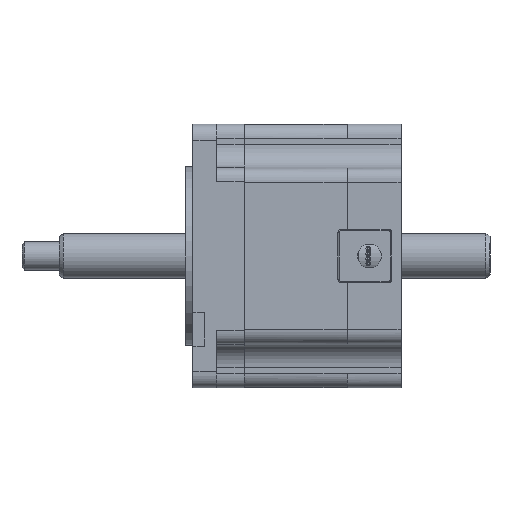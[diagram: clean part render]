
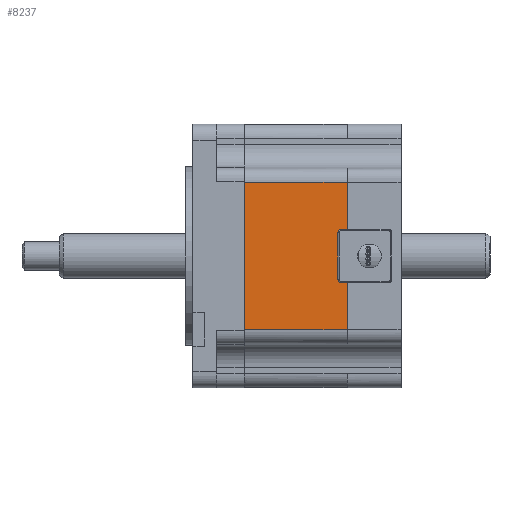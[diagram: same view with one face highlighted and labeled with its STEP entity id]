
A CAD part, front view. The second image highlights one B-rep face of the part: STEP entity #8237.
In plain terms, the highlighted planar face has unit normal (0, -1, 0).
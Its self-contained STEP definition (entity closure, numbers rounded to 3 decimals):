
#2411=CARTESIAN_POINT('',(11.,-28.1,-15.8));
#2412=VERTEX_POINT('',#2411);
#2420=CARTESIAN_POINT('',(11.,-28.1,15.8));
#2421=VERTEX_POINT('',#2420);
#2422=CARTESIAN_POINT('',(11.,-28.1,-15.8));
#2423=DIRECTION('',(0.,0.,1.));
#2424=VECTOR('',#2423,31.6);
#2425=LINE('',#2422,#2424);
#2426=EDGE_CURVE('',#2412,#2421,#2425,.T.);
#2918=CARTESIAN_POINT('',(33.002,-28.1,-15.8));
#2919=VERTEX_POINT('',#2918);
#2927=CARTESIAN_POINT('',(33.002,-28.1,-15.8));
#2928=DIRECTION('',(-1.,0.,0.));
#2929=VECTOR('',#2928,22.002);
#2930=LINE('',#2927,#2929);
#2931=EDGE_CURVE('',#2919,#2412,#2930,.T.);
#2982=CARTESIAN_POINT('',(33.002,-28.1,15.8));
#2983=VERTEX_POINT('',#2982);
#2984=CARTESIAN_POINT('',(11.,-28.1,15.8));
#2985=DIRECTION('',(1.,0.,0.));
#2986=VECTOR('',#2985,22.002);
#2987=LINE('',#2984,#2986);
#2988=EDGE_CURVE('',#2421,#2983,#2987,.T.);
#8171=CARTESIAN_POINT('',(22.,-28.1,0.));
#8172=DIRECTION('',(0.,0.,1.));
#8173=DIRECTION('',(0.,-1.,0.));
#8174=AXIS2_PLACEMENT_3D('',#8171,#8173,#8172);
#8175=PLANE('',#8174);
#8176=CARTESIAN_POINT('',(33.002,-28.1,5.753));
#8177=VERTEX_POINT('',#8176);
#8178=CARTESIAN_POINT('',(33.002,-28.1,5.753));
#8179=DIRECTION('',(0.,0.,1.));
#8180=VECTOR('',#8179,10.047);
#8181=LINE('',#8178,#8180);
#8182=EDGE_CURVE('',#8177,#2983,#8181,.T.);
#8183=ORIENTED_EDGE('E737',*,*,#8182,.T.);
#8184=ORIENTED_EDGE('E737',*,*,#2988,.F.);
#8185=ORIENTED_EDGE('E737',*,*,#2426,.F.);
#8186=ORIENTED_EDGE('E737',*,*,#2931,.F.);
#8187=CARTESIAN_POINT('',(33.002,-28.1,-5.753));
#8188=VERTEX_POINT('',#8187);
#8189=CARTESIAN_POINT('',(33.002,-28.1,-15.8));
#8190=DIRECTION('',(0.,0.,1.));
#8191=VECTOR('',#8190,10.047);
#8192=LINE('',#8189,#8191);
#8193=EDGE_CURVE('',#2919,#8188,#8192,.T.);
#8194=ORIENTED_EDGE('E738',*,*,#8193,.T.);
#8195=CARTESIAN_POINT('',(31.754,-28.1,-5.753));
#8196=VERTEX_POINT('',#8195);
#8197=CARTESIAN_POINT('',(33.002,-28.1,-5.753));
#8198=DIRECTION('',(-1.,0.,0.));
#8199=VECTOR('',#8198,1.249);
#8200=LINE('',#8197,#8199);
#8201=EDGE_CURVE('',#8188,#8196,#8200,.T.);
#8202=ORIENTED_EDGE('E739',*,*,#8201,.T.);
#8203=CARTESIAN_POINT('',(30.994,-28.1,-4.993));
#8204=VERTEX_POINT('',#8203);
#8205=CARTESIAN_POINT('',(31.754,-28.1,-4.993));
#8206=DIRECTION('',(0.,0.,-1.));
#8207=DIRECTION('',(0.,1.,0.));
#8208=AXIS2_PLACEMENT_3D('',#8205,#8207,#8206);
#8209=CIRCLE('',#8208,0.76);
#8210=EDGE_CURVE('',#8196,#8204,#8209,.T.);
#8211=ORIENTED_EDGE('E740',*,*,#8210,.T.);
#8212=CARTESIAN_POINT('',(30.994,-28.1,4.993));
#8213=VERTEX_POINT('',#8212);
#8214=CARTESIAN_POINT('',(30.994,-28.1,-4.993));
#8215=DIRECTION('',(0.,0.,1.));
#8216=VECTOR('',#8215,9.986);
#8217=LINE('',#8214,#8216);
#8218=EDGE_CURVE('',#8204,#8213,#8217,.T.);
#8219=ORIENTED_EDGE('E741',*,*,#8218,.T.);
#8220=CARTESIAN_POINT('',(31.754,-28.1,5.753));
#8221=VERTEX_POINT('',#8220);
#8222=CARTESIAN_POINT('',(31.754,-28.1,4.993));
#8223=DIRECTION('',(-1.,0.,0.));
#8224=DIRECTION('',(0.,1.,0.));
#8225=AXIS2_PLACEMENT_3D('',#8222,#8224,#8223);
#8226=CIRCLE('',#8225,0.76);
#8227=EDGE_CURVE('',#8213,#8221,#8226,.T.);
#8228=ORIENTED_EDGE('E742',*,*,#8227,.T.);
#8229=CARTESIAN_POINT('',(31.754,-28.1,5.753));
#8230=DIRECTION('',(1.,0.,0.));
#8231=VECTOR('',#8230,1.249);
#8232=LINE('',#8229,#8231);
#8233=EDGE_CURVE('',#8221,#8177,#8232,.T.);
#8234=ORIENTED_EDGE('E743',*,*,#8233,.T.);
#8235=EDGE_LOOP('',(#8183,#8184,#8185,#8186,#8194,#8202,#8211,#8219,#8228,#8234));
#8236=FACE_OUTER_BOUND('',#8235,.T.);
#8237=ADVANCED_FACE('F240',(#8236),#8175,.T.);
